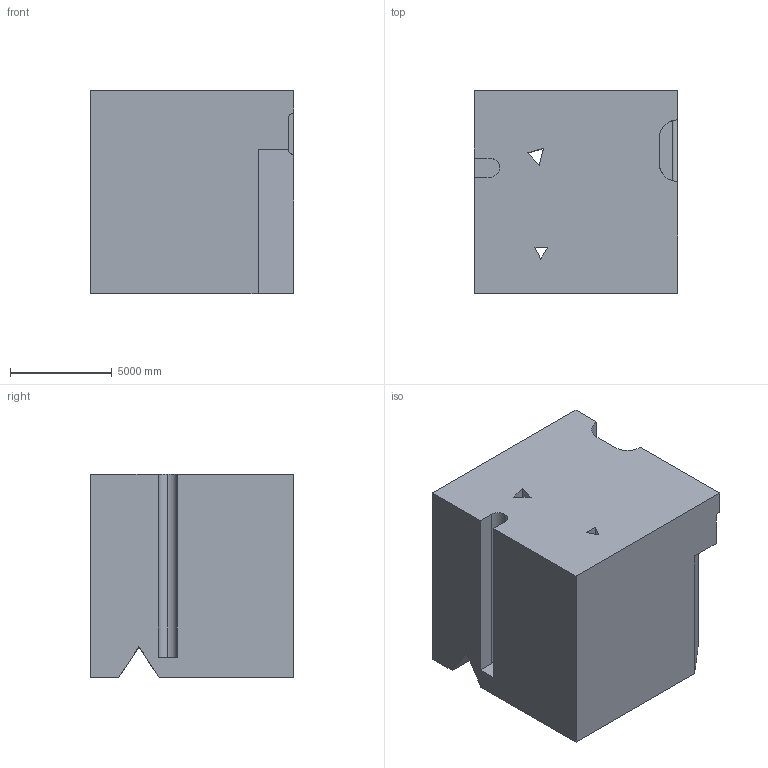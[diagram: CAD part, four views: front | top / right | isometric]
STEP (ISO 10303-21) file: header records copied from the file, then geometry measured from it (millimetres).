
FILE_DESCRIPTION (( 'STEP AP203' ), '1' );
FILE_NAME ('190.STEP', '2022-09-06T16:18:43', ( 'user' ), ( '' ), 'SwSTEP 2.0', 'SolidWorks 2021', '' );
FILE_SCHEMA (( 'CONFIG_CONTROL_DESIGN' ));
Length unit declared in the file: centimetre
Products named in the file (1): 190
Bounding box: 10000 x 10000 x 10000 mm (x, y, z)
Volume: 921274580269.2 mm3; surface area: 740961600.2 mm2
Topology: 1 solids, 1 shells, 54 faces, 165 edges, 110 vertices
Faces by surface type: plane 37, cylinder 17
Entity records: 2030 total; most frequent: CARTESIAN_POINT 509, ORIENTED_EDGE 330, DIRECTION 276, EDGE_CURVE 165, VERTEX_POINT 110, VECTOR 106, LINE 106, AXIS2_PLACEMENT_3D 85
